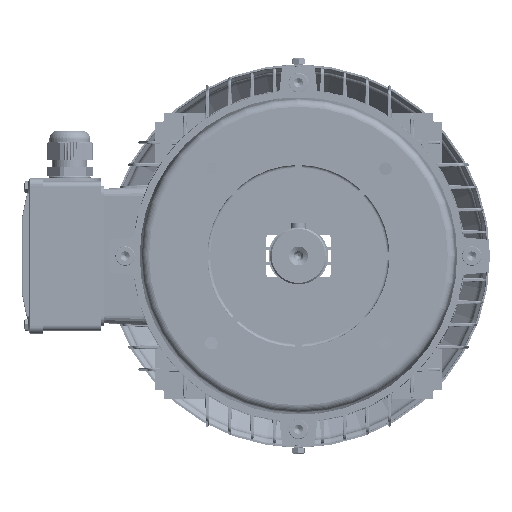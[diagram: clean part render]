
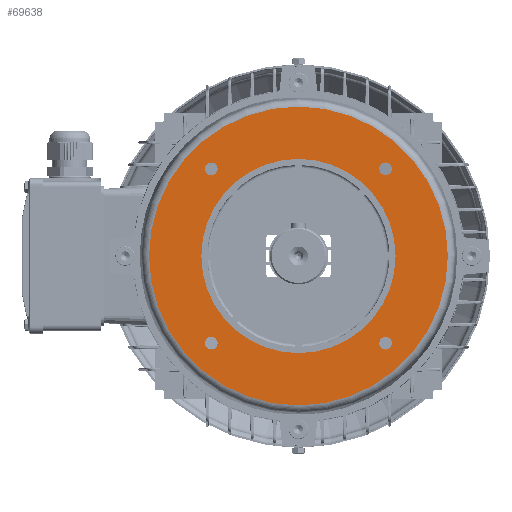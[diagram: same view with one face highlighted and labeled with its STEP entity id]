
A CAD part, left-side view. The second image highlights one B-rep face of the part: STEP entity #69638.
In plain terms, the highlighted planar face has unit normal (-1, 0, 0).
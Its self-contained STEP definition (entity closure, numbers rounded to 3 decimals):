
#877 = CARTESIAN_POINT ( 'NONE',  ( -22., -58.336, 62.586 ) ) ;
#2902 = EDGE_CURVE ( 'NONE', #11578, #74122, #62118, .T. ) ;
#2998 = DIRECTION ( 'NONE',  ( 0., 0., -1. ) ) ;
#3621 = AXIS2_PLACEMENT_3D ( 'NONE', #67186, #44025, #104529 ) ;
#4700 = DIRECTION ( 'NONE',  ( 0., 0., -1. ) ) ;
#5038 = FACE_BOUND ( 'NONE', #65255, .T. ) ;
#7214 = VERTEX_POINT ( 'NONE', #51813 ) ;
#7917 = AXIS2_PLACEMENT_3D ( 'NONE', #139150, #65961, #67508 ) ;
#11307 = CARTESIAN_POINT ( 'NONE',  ( -22., 0., 65. ) ) ;
#11578 = VERTEX_POINT ( 'NONE', #134328 ) ;
#11996 = ORIENTED_EDGE ( 'NONE', *, *, #66634, .T. ) ;
#12029 = CIRCLE ( 'NONE', #3621, 4.25 ) ;
#12742 = ORIENTED_EDGE ( 'NONE', *, *, #97000, .T. ) ;
#13922 = CIRCLE ( 'NONE', #74747, 4.25 ) ;
#14128 = CARTESIAN_POINT ( 'NONE',  ( -22., 58.336, 62.586 ) ) ;
#14819 = CARTESIAN_POINT ( 'NONE',  ( -22., 0., -65. ) ) ;
#20140 = EDGE_CURVE ( 'NONE', #7214, #131593, #142823, .T. ) ;
#24370 = DIRECTION ( 'NONE',  ( 1., 0., 0. ) ) ;
#24930 = AXIS2_PLACEMENT_3D ( 'NONE', #149006, #76818, #4700 ) ;
#25800 = CARTESIAN_POINT ( 'NONE',  ( -22., -58.336, -62.586 ) ) ;
#28553 = VERTEX_POINT ( 'NONE', #126599 ) ;
#29919 = EDGE_CURVE ( 'NONE', #148550, #154236, #13922, .T. ) ;
#30140 = AXIS2_PLACEMENT_3D ( 'NONE', #58235, #130908, #155707 ) ;
#30568 = ORIENTED_EDGE ( 'NONE', *, *, #82973, .F. ) ;
#33181 = DIRECTION ( 'NONE',  ( 1., 0., 0. ) ) ;
#33190 = DIRECTION ( 'NONE',  ( 0., 0., -1. ) ) ;
#33449 = VERTEX_POINT ( 'NONE', #53084 ) ;
#40008 = EDGE_LOOP ( 'NONE', ( #30568, #125093 ) ) ;
#44025 = DIRECTION ( 'NONE',  ( 1., 0., 0. ) ) ;
#44205 = EDGE_CURVE ( 'NONE', #33449, #52163, #74585, .T. ) ;
#44611 = ORIENTED_EDGE ( 'NONE', *, *, #44205, .T. ) ;
#44622 = FACE_OUTER_BOUND ( 'NONE', #149081, .T. ) ;
#48384 = FACE_BOUND ( 'NONE', #70808, .T. ) ;
#51813 = CARTESIAN_POINT ( 'NONE',  ( -22., -58.336, -54.086 ) ) ;
#52163 = VERTEX_POINT ( 'NONE', #14128 ) ;
#52723 = VERTEX_POINT ( 'NONE', #14819 ) ;
#53084 = CARTESIAN_POINT ( 'NONE',  ( -22., 58.336, 54.086 ) ) ;
#55845 = CARTESIAN_POINT ( 'NONE',  ( -22., -58.336, 58.336 ) ) ;
#56507 = AXIS2_PLACEMENT_3D ( 'NONE', #128682, #91739, #128154 ) ;
#58235 = CARTESIAN_POINT ( 'NONE',  ( -22., 58.336, -58.336 ) ) ;
#58904 = EDGE_CURVE ( 'NONE', #86176, #28553, #155173, .T. ) ;
#58936 = DIRECTION ( 'NONE',  ( 0., 0., -1. ) ) ;
#59081 = CARTESIAN_POINT ( 'NONE',  ( -22., 0., 0. ) ) ;
#62118 = CIRCLE ( 'NONE', #56507, 4.25 ) ;
#64313 = EDGE_CURVE ( 'NONE', #28553, #86176, #113812, .T. ) ;
#65255 = EDGE_LOOP ( 'NONE', ( #142355, #12742 ) ) ;
#65296 = DIRECTION ( 'NONE',  ( -1., 0., 0. ) ) ;
#65961 = DIRECTION ( 'NONE',  ( 1., 0., 0. ) ) ;
#66634 = EDGE_CURVE ( 'NONE', #131593, #7214, #132076, .T. ) ;
#67186 = CARTESIAN_POINT ( 'NONE',  ( -22., -58.336, 58.336 ) ) ;
#67508 = DIRECTION ( 'NONE',  ( 0., 0., -1. ) ) ;
#69271 = VERTEX_POINT ( 'NONE', #11307 ) ;
#69638 = ADVANCED_FACE ( 'NONE', ( #101072, #48384, #133128, #5038, #44622, #129396 ), #140181, .F. ) ;
#69835 = ORIENTED_EDGE ( 'NONE', *, *, #29919, .T. ) ;
#69843 = AXIS2_PLACEMENT_3D ( 'NONE', #105306, #33181, #58936 ) ;
#70808 = EDGE_LOOP ( 'NONE', ( #81003, #69835 ) ) ;
#74122 = VERTEX_POINT ( 'NONE', #118686 ) ;
#74473 = CIRCLE ( 'NONE', #98356, 65. ) ;
#74585 = CIRCLE ( 'NONE', #81450, 4.25 ) ;
#74747 = AXIS2_PLACEMENT_3D ( 'NONE', #55845, #142180, #33190 ) ;
#76818 = DIRECTION ( 'NONE',  ( 1., 0., 0. ) ) ;
#77208 = AXIS2_PLACEMENT_3D ( 'NONE', #87914, #65296, #150106 ) ;
#80113 = ORIENTED_EDGE ( 'NONE', *, *, #58904, .T. ) ;
#81003 = ORIENTED_EDGE ( 'NONE', *, *, #83501, .T. ) ;
#81450 = AXIS2_PLACEMENT_3D ( 'NONE', #85302, #24370, #110099 ) ;
#82973 = EDGE_CURVE ( 'NONE', #69271, #52723, #106289, .T. ) ;
#83501 = EDGE_CURVE ( 'NONE', #154236, #148550, #12029, .T. ) ;
#85302 = CARTESIAN_POINT ( 'NONE',  ( -22., 58.336, 58.336 ) ) ;
#86176 = VERTEX_POINT ( 'NONE', #136530 ) ;
#87914 = CARTESIAN_POINT ( 'NONE',  ( -22., 0., 0. ) ) ;
#89708 = EDGE_CURVE ( 'NONE', #52163, #33449, #148410, .T. ) ;
#91739 = DIRECTION ( 'NONE',  ( 1., 0., 0. ) ) ;
#94338 = DIRECTION ( 'NONE',  ( 0., 0., 1. ) ) ;
#95500 = DIRECTION ( 'NONE',  ( 0., 0., 1. ) ) ;
#97000 = EDGE_CURVE ( 'NONE', #74122, #11578, #112223, .T. ) ;
#97610 = CARTESIAN_POINT ( 'NONE',  ( -22., -58.336, 54.086 ) ) ;
#98356 = AXIS2_PLACEMENT_3D ( 'NONE', #114377, #139144, #102251 ) ;
#99767 = DIRECTION ( 'NONE',  ( 1., 0., 0. ) ) ;
#101072 = FACE_BOUND ( 'NONE', #103491, .T. ) ;
#102251 = DIRECTION ( 'NONE',  ( 0., 0., 1. ) ) ;
#103491 = EDGE_LOOP ( 'NONE', ( #44611, #108678 ) ) ;
#104189 = EDGE_CURVE ( 'NONE', #52723, #69271, #74473, .T. ) ;
#104529 = DIRECTION ( 'NONE',  ( 0., 0., -1. ) ) ;
#105306 = CARTESIAN_POINT ( 'NONE',  ( -22., 58.336, 58.336 ) ) ;
#106289 = CIRCLE ( 'NONE', #77208, 65. ) ;
#107166 = DIRECTION ( 'NONE',  ( -1., 0., 0. ) ) ;
#107678 = CARTESIAN_POINT ( 'NONE',  ( -22., 0., 0. ) ) ;
#108027 = AXIS2_PLACEMENT_3D ( 'NONE', #107678, #107166, #95500 ) ;
#108678 = ORIENTED_EDGE ( 'NONE', *, *, #89708, .T. ) ;
#110099 = DIRECTION ( 'NONE',  ( 0., 0., -1. ) ) ;
#112223 = CIRCLE ( 'NONE', #30140, 4.25 ) ;
#113812 = CIRCLE ( 'NONE', #140483, 100. ) ;
#114373 = ORIENTED_EDGE ( 'NONE', *, *, #64313, .T. ) ;
#114377 = CARTESIAN_POINT ( 'NONE',  ( -22., 0., 0. ) ) ;
#117437 = EDGE_LOOP ( 'NONE', ( #11996, #120893 ) ) ;
#118686 = CARTESIAN_POINT ( 'NONE',  ( -22., 58.336, -54.086 ) ) ;
#119652 = DIRECTION ( 'NONE',  ( -1., 0., 0. ) ) ;
#120893 = ORIENTED_EDGE ( 'NONE', *, *, #20140, .T. ) ;
#125093 = ORIENTED_EDGE ( 'NONE', *, *, #104189, .F. ) ;
#126599 = CARTESIAN_POINT ( 'NONE',  ( -22., 0., 100. ) ) ;
#126750 = AXIS2_PLACEMENT_3D ( 'NONE', #146744, #99767, #2998 ) ;
#128154 = DIRECTION ( 'NONE',  ( 0., 0., -1. ) ) ;
#128682 = CARTESIAN_POINT ( 'NONE',  ( -22., 58.336, -58.336 ) ) ;
#129396 = FACE_BOUND ( 'NONE', #40008, .T. ) ;
#130908 = DIRECTION ( 'NONE',  ( 1., 0., 0. ) ) ;
#131593 = VERTEX_POINT ( 'NONE', #25800 ) ;
#132076 = CIRCLE ( 'NONE', #126750, 4.25 ) ;
#133128 = FACE_BOUND ( 'NONE', #117437, .T. ) ;
#134328 = CARTESIAN_POINT ( 'NONE',  ( -22., 58.336, -62.586 ) ) ;
#136530 = CARTESIAN_POINT ( 'NONE',  ( -22., 0., -100. ) ) ;
#139144 = DIRECTION ( 'NONE',  ( -1., 0., 0. ) ) ;
#139150 = CARTESIAN_POINT ( 'NONE',  ( -22., 65., 0. ) ) ;
#140181 = PLANE ( 'NONE',  #7917 ) ;
#140483 = AXIS2_PLACEMENT_3D ( 'NONE', #59081, #119652, #94338 ) ;
#142180 = DIRECTION ( 'NONE',  ( 1., 0., 0. ) ) ;
#142355 = ORIENTED_EDGE ( 'NONE', *, *, #2902, .T. ) ;
#142823 = CIRCLE ( 'NONE', #24930, 4.25 ) ;
#146744 = CARTESIAN_POINT ( 'NONE',  ( -22., -58.336, -58.336 ) ) ;
#148410 = CIRCLE ( 'NONE', #69843, 4.25 ) ;
#148550 = VERTEX_POINT ( 'NONE', #877 ) ;
#149006 = CARTESIAN_POINT ( 'NONE',  ( -22., -58.336, -58.336 ) ) ;
#149081 = EDGE_LOOP ( 'NONE', ( #114373, #80113 ) ) ;
#150106 = DIRECTION ( 'NONE',  ( 0., 0., 1. ) ) ;
#154236 = VERTEX_POINT ( 'NONE', #97610 ) ;
#155173 = CIRCLE ( 'NONE', #108027, 100. ) ;
#155707 = DIRECTION ( 'NONE',  ( 0., 0., -1. ) ) ;
